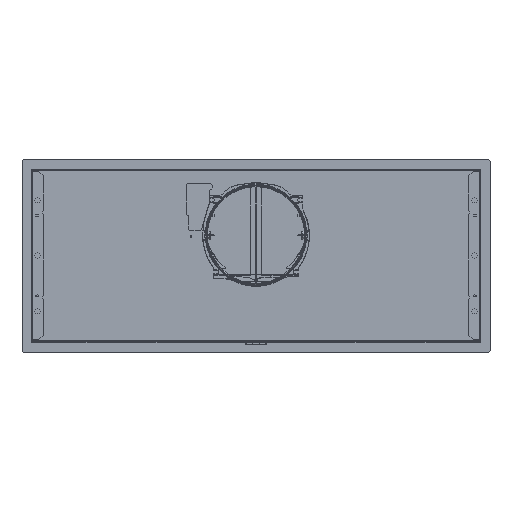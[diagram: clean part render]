
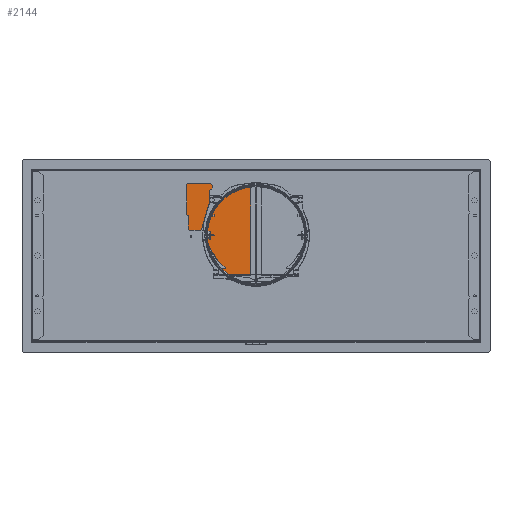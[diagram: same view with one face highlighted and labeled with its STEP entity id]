
A CAD part, top view. The second image highlights one B-rep face of the part: STEP entity #2144.
In plain terms, the highlighted planar face has unit normal (0, 0, 1) as drawn and (0, -1, 0) by its records, which use the part's own axes.
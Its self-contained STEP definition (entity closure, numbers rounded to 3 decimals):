
#261=FACE_BOUND('',#17116,.T.);
#2144=ADVANCED_FACE('',(#9598,#261),#116936,.T.);
#9598=FACE_OUTER_BOUND('',#17115,.T.);
#17115=EDGE_LOOP('',(#30271,#30272,#30273,#30274,#30275,#30276,#30277,#30278));
#17116=EDGE_LOOP('',(#30279,#30280,#30281,#30282,#30283,#30284));
#30271=ORIENTED_EDGE('',*,*,#64033,.T.);
#30272=ORIENTED_EDGE('',*,*,#64031,.F.);
#30273=ORIENTED_EDGE('',*,*,#64029,.T.);
#30274=ORIENTED_EDGE('',*,*,#64026,.F.);
#30275=ORIENTED_EDGE('',*,*,#64024,.T.);
#30276=ORIENTED_EDGE('',*,*,#64021,.F.);
#30277=ORIENTED_EDGE('',*,*,#64019,.T.);
#30278=ORIENTED_EDGE('',*,*,#64015,.F.);
#30279=ORIENTED_EDGE('',*,*,#64037,.F.);
#30280=ORIENTED_EDGE('',*,*,#64036,.F.);
#30281=ORIENTED_EDGE('',*,*,#64035,.F.);
#30282=ORIENTED_EDGE('',*,*,#64051,.F.);
#30283=ORIENTED_EDGE('',*,*,#64034,.F.);
#30284=ORIENTED_EDGE('',*,*,#64042,.F.);
#64015=EDGE_CURVE('',#104668,#104667,#91240,.T.);
#64019=EDGE_CURVE('',#104669,#104667,#80209,.T.);
#64021=EDGE_CURVE('',#104669,#104670,#91244,.T.);
#64024=EDGE_CURVE('',#104671,#104670,#80211,.T.);
#64026=EDGE_CURVE('',#104671,#104672,#91247,.T.);
#64029=EDGE_CURVE('',#104673,#104672,#80213,.T.);
#64031=EDGE_CURVE('',#104673,#104674,#91250,.T.);
#64033=EDGE_CURVE('',#104668,#104674,#80215,.T.);
#64034=EDGE_CURVE('',#104675,#104676,#91251,.T.);
#64035=EDGE_CURVE('',#104677,#104678,#91252,.T.);
#64036=EDGE_CURVE('',#104678,#104679,#91253,.T.);
#64037=EDGE_CURVE('',#104679,#104680,#91254,.T.);
#64042=EDGE_CURVE('',#104680,#104675,#80217,.T.);
#64051=EDGE_CURVE('',#104676,#104677,#80219,.T.);
#80209=TRIMMED_CURVE($,#84979,(#210266),(#210267),.T.,.CARTESIAN.);
#80211=TRIMMED_CURVE($,#84981,(#210278),(#210279),.T.,.CARTESIAN.);
#80213=TRIMMED_CURVE($,#84983,(#210290),(#210291),.T.,.CARTESIAN.);
#80215=TRIMMED_CURVE($,#84985,(#210300),(#210301),.T.,.CARTESIAN.);
#80217=TRIMMED_CURVE($,#84987,(#210320),(#210321),.T.,.CARTESIAN.);
#80219=TRIMMED_CURVE($,#84989,(#210340),(#210341),.T.,.CARTESIAN.);
#84979=CIRCLE('',#125037,0.5);
#84981=CIRCLE('',#125039,0.5);
#84983=CIRCLE('',#125041,0.5);
#84985=CIRCLE('',#125043,0.5);
#84987=CIRCLE('',#125045,1.);
#84989=CIRCLE('',#125047,1.);
#91240=B_SPLINE_CURVE_WITH_KNOTS('',1,(#210256,#210257),.UNSPECIFIED.,.F.,
 .F.,(2,2),(-142.,0.),.UNSPECIFIED.);
#91244=B_SPLINE_CURVE_WITH_KNOTS('',1,(#210270,#210271),.UNSPECIFIED.,.F.,
 .F.,(2,2),(-302.,0.),.UNSPECIFIED.);
#91247=B_SPLINE_CURVE_WITH_KNOTS('',1,(#210282,#210283),.UNSPECIFIED.,.F.,
 .F.,(2,2),(-142.,0.),.UNSPECIFIED.);
#91250=B_SPLINE_CURVE_WITH_KNOTS('',1,(#210294,#210295),.UNSPECIFIED.,.F.,
 .F.,(2,2),(-302.,0.),.UNSPECIFIED.);
#91251=B_SPLINE_CURVE_WITH_KNOTS('',1,(#210302,#210303),.UNSPECIFIED.,.F.,
 .F.,(2,2),(0.,31.),.UNSPECIFIED.);
#91252=B_SPLINE_CURVE_WITH_KNOTS('',1,(#210304,#210305),.UNSPECIFIED.,.F.,
 .F.,(2,2),(0.,42.),.UNSPECIFIED.);
#91253=B_SPLINE_CURVE_WITH_KNOTS('',1,(#210306,#210307),.UNSPECIFIED.,.F.,
 .F.,(2,2),(0.,33.),.UNSPECIFIED.);
#91254=B_SPLINE_CURVE_WITH_KNOTS('',1,(#210308,#210309),.UNSPECIFIED.,.F.,
 .F.,(2,2),(0.,42.),.UNSPECIFIED.);
#104667=VERTEX_POINT('',#208721);
#104668=VERTEX_POINT('',#208722);
#104669=VERTEX_POINT('',#208723);
#104670=VERTEX_POINT('',#208724);
#104671=VERTEX_POINT('',#208725);
#104672=VERTEX_POINT('',#208726);
#104673=VERTEX_POINT('',#208727);
#104674=VERTEX_POINT('',#208728);
#104675=VERTEX_POINT('',#208729);
#104676=VERTEX_POINT('',#208730);
#104677=VERTEX_POINT('',#208731);
#104678=VERTEX_POINT('',#208732);
#104679=VERTEX_POINT('',#208733);
#104680=VERTEX_POINT('',#208734);
#116936=PLANE('',#124844);
#124844=AXIS2_PLACEMENT_3D('',#208289,#136212,$);
#125037=AXIS2_PLACEMENT_3D($,#210265,#136590,#136591);
#125039=AXIS2_PLACEMENT_3D($,#210277,#136594,#136595);
#125041=AXIS2_PLACEMENT_3D($,#210289,#136598,#136599);
#125043=AXIS2_PLACEMENT_3D($,#210299,#136602,#136603);
#125045=AXIS2_PLACEMENT_3D($,#210319,#136606,#136607);
#125047=AXIS2_PLACEMENT_3D($,#210339,#136610,#136611);
#136212=DIRECTION('',(0.,-1.,0.));
#136590=DIRECTION('',(0.,-1.,0.));
#136591=DIRECTION('',(-1.,0.,0.));
#136594=DIRECTION('',(0.,-1.,0.));
#136595=DIRECTION('',(0.,0.,1.));
#136598=DIRECTION('',(0.,-1.,0.));
#136599=DIRECTION('',(1.,0.,0.));
#136602=DIRECTION('',(0.,-1.,0.));
#136603=DIRECTION('',(0.,0.,-1.));
#136606=DIRECTION('',(0.,-1.,0.));
#136607=DIRECTION('',(0.,0.,-1.));
#136610=DIRECTION('',(0.,-1.,0.));
#136611=DIRECTION('',(1.,0.,0.));
#208289=CARTESIAN_POINT('',(-86.232,-2.,182.232));
#208721=CARTESIAN_POINT('',(-71.,-2.,-151.5));
#208722=CARTESIAN_POINT('',(71.,-2.,-151.5));
#208723=CARTESIAN_POINT('',(-71.5,-2.,-151.));
#208724=CARTESIAN_POINT('',(-71.5,-2.,151.));
#208725=CARTESIAN_POINT('',(-71.,-2.,151.5));
#208726=CARTESIAN_POINT('',(71.,-2.,151.5));
#208727=CARTESIAN_POINT('',(71.5,-2.,151.));
#208728=CARTESIAN_POINT('',(71.5,-2.,-151.));
#208729=CARTESIAN_POINT('',(-27.2,-2.,-15.5));
#208730=CARTESIAN_POINT('',(-27.2,-2.,15.5));
#208731=CARTESIAN_POINT('',(-28.2,-2.,16.5));
#208732=CARTESIAN_POINT('',(-70.2,-2.,16.5));
#208733=CARTESIAN_POINT('',(-70.2,-2.,-16.5));
#208734=CARTESIAN_POINT('',(-28.2,-2.,-16.5));
#210256=CARTESIAN_POINT('',(71.,-2.,-151.5));
#210257=CARTESIAN_POINT('',(-71.,-2.,-151.5));
#210265=CARTESIAN_POINT('',(-71.,-2.,-151.));
#210266=CARTESIAN_POINT('',(-71.5,-2.,-151.));
#210267=CARTESIAN_POINT('',(-71.,-2.,-151.5));
#210270=CARTESIAN_POINT('',(-71.5,-2.,-151.));
#210271=CARTESIAN_POINT('',(-71.5,-2.,151.));
#210277=CARTESIAN_POINT('',(-71.,-2.,151.));
#210278=CARTESIAN_POINT('',(-71.,-2.,151.5));
#210279=CARTESIAN_POINT('',(-71.5,-2.,151.));
#210282=CARTESIAN_POINT('',(-71.,-2.,151.5));
#210283=CARTESIAN_POINT('',(71.,-2.,151.5));
#210289=CARTESIAN_POINT('',(71.,-2.,151.));
#210290=CARTESIAN_POINT('',(71.5,-2.,151.));
#210291=CARTESIAN_POINT('',(71.,-2.,151.5));
#210294=CARTESIAN_POINT('',(71.5,-2.,151.));
#210295=CARTESIAN_POINT('',(71.5,-2.,-151.));
#210299=CARTESIAN_POINT('',(71.,-2.,-151.));
#210300=CARTESIAN_POINT('',(71.,-2.,-151.5));
#210301=CARTESIAN_POINT('',(71.5,-2.,-151.));
#210302=CARTESIAN_POINT('',(-27.2,-2.,-15.5));
#210303=CARTESIAN_POINT('',(-27.2,-2.,15.5));
#210304=CARTESIAN_POINT('',(-28.2,-2.,16.5));
#210305=CARTESIAN_POINT('',(-70.2,-2.,16.5));
#210306=CARTESIAN_POINT('',(-70.2,-2.,16.5));
#210307=CARTESIAN_POINT('',(-70.2,-2.,-16.5));
#210308=CARTESIAN_POINT('',(-70.2,-2.,-16.5));
#210309=CARTESIAN_POINT('',(-28.2,-2.,-16.5));
#210319=CARTESIAN_POINT('',(-28.2,-2.,-15.5));
#210320=CARTESIAN_POINT('',(-28.2,-2.,-16.5));
#210321=CARTESIAN_POINT('',(-27.2,-2.,-15.5));
#210339=CARTESIAN_POINT('',(-28.2,-2.,15.5));
#210340=CARTESIAN_POINT('',(-27.2,-2.,15.5));
#210341=CARTESIAN_POINT('',(-28.2,-2.,16.5));
